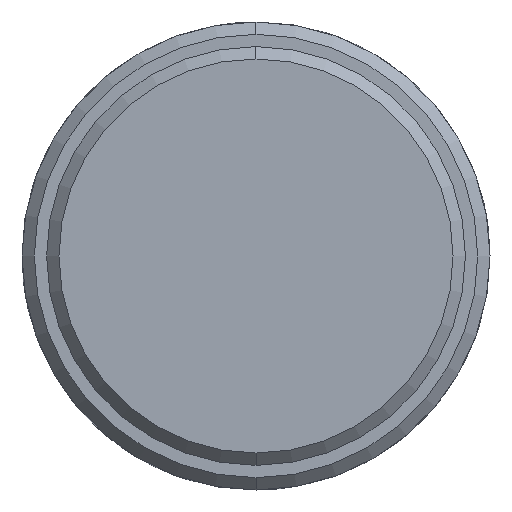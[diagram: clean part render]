
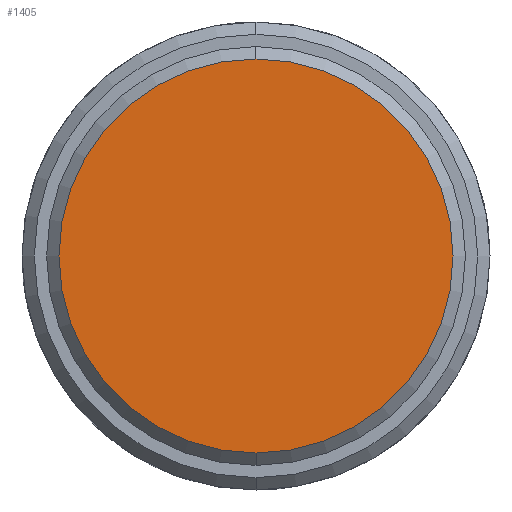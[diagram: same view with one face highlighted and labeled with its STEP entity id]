
A CAD part, left-side view. The second image highlights one B-rep face of the part: STEP entity #1405.
In plain terms, the highlighted planar face has unit normal (-1, 0, 0).
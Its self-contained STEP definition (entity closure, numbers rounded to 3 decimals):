
#1337=CARTESIAN_POINT('Vertex',(-17.,0.,-16.)) ;
#1340=CARTESIAN_POINT('Axis2P3D Location',(-17.,0.,0.)) ;
#1344=CARTESIAN_POINT('Vertex',(-17.,16.,0.)) ;
#1347=CARTESIAN_POINT('Axis2P3D Location',(-17.,0.,0.)) ;
#1351=CARTESIAN_POINT('Vertex',(-17.,0.,16.)) ;
#1373=CARTESIAN_POINT('Axis2P3D Location',(-17.,0.,0.)) ;
#1377=CARTESIAN_POINT('Vertex',(-17.,-16.,0.)) ;
#1380=CARTESIAN_POINT('Axis2P3D Location',(-17.,0.,0.)) ;
#1394=CARTESIAN_POINT('Axis2P3D Location',(-17.,0.,0.)) ;
#1341=DIRECTION('Axis2P3D Direction',(1.,0.,-0.)) ;
#1348=DIRECTION('Axis2P3D Direction',(1.,0.,-0.)) ;
#1374=DIRECTION('Axis2P3D Direction',(1.,0.,-0.)) ;
#1381=DIRECTION('Axis2P3D Direction',(1.,0.,-0.)) ;
#1395=DIRECTION('Axis2P3D Direction',(1.,0.,-0.)) ;
#1396=DIRECTION('Axis2P3D XDirection',(-0.,0.,-1.)) ;
#1342=AXIS2_PLACEMENT_3D('Circle Axis2P3D',#1340,#1341,$) ;
#1349=AXIS2_PLACEMENT_3D('Circle Axis2P3D',#1347,#1348,$) ;
#1375=AXIS2_PLACEMENT_3D('Circle Axis2P3D',#1373,#1374,$) ;
#1382=AXIS2_PLACEMENT_3D('Circle Axis2P3D',#1380,#1381,$) ;
#1397=AXIS2_PLACEMENT_3D('Plane Axis2P3D',#1394,#1395,#1396) ;
#1400=ORIENTED_EDGE('',*,*,#1346,.F.) ;
#1401=ORIENTED_EDGE('',*,*,#1384,.F.) ;
#1402=ORIENTED_EDGE('',*,*,#1379,.F.) ;
#1403=ORIENTED_EDGE('',*,*,#1353,.F.) ;
#1405=ADVANCED_FACE('357-25X56X100',(#1404),#1398,.F.) ;
#1343=CIRCLE('generated circle',#1342,16.) ;
#1350=CIRCLE('generated circle',#1349,16.) ;
#1376=CIRCLE('generated circle',#1375,16.) ;
#1383=CIRCLE('generated circle',#1382,16.) ;
#1346=EDGE_CURVE('',#1338,#1345,#1343,.T.) ;
#1353=EDGE_CURVE('',#1345,#1352,#1350,.T.) ;
#1379=EDGE_CURVE('',#1352,#1378,#1376,.T.) ;
#1384=EDGE_CURVE('',#1378,#1338,#1383,.T.) ;
#1399=EDGE_LOOP('',(#1400,#1401,#1402,#1403)) ;
#1404=FACE_OUTER_BOUND('',#1399,.T.) ;
#1398=PLANE('Plane',#1397) ;
#1338=VERTEX_POINT('',#1337) ;
#1345=VERTEX_POINT('',#1344) ;
#1352=VERTEX_POINT('',#1351) ;
#1378=VERTEX_POINT('',#1377) ;
